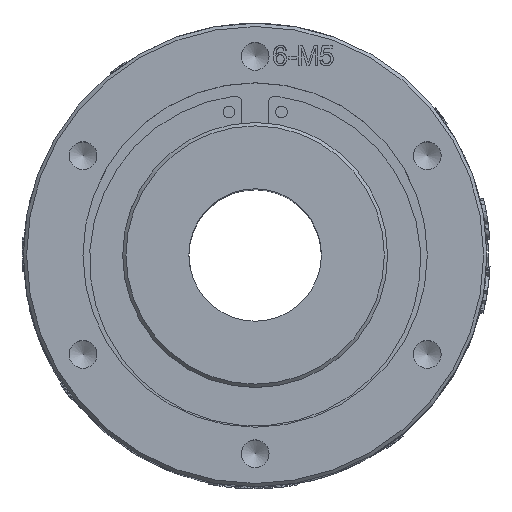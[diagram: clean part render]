
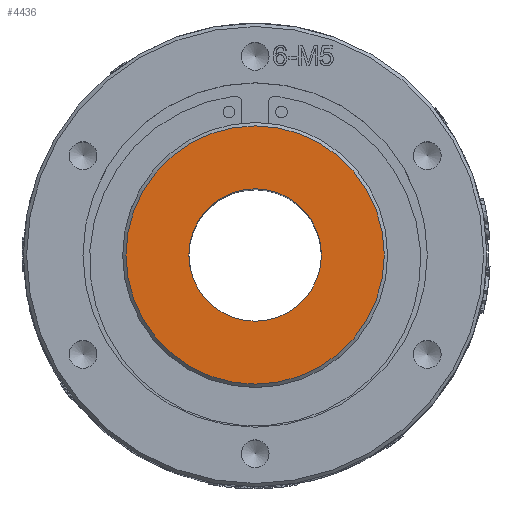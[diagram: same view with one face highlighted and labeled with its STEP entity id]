
A CAD part, top view. The second image highlights one B-rep face of the part: STEP entity #4436.
In plain terms, the highlighted planar face has unit normal (0, 0, 1).
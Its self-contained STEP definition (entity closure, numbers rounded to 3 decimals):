
#513=FACE_BOUND('',#7600,.T.);
#514=FACE_BOUND('',#7601,.T.);
#775=CIRCLE('',#24504,19.5);
#776=CIRCLE('',#24506,10.);
#4436=ADVANCED_FACE('',(#513,#514),#5167,.T.);
#5167=PLANE('',#24507);
#7600=EDGE_LOOP('',(#13005));
#7601=EDGE_LOOP('',(#13006));
#13005=ORIENTED_EDGE('',*,*,#20160,.T.);
#13006=ORIENTED_EDGE('',*,*,#20161,.F.);
#16892=VERTEX_POINT('',#45456);
#16893=VERTEX_POINT('',#45459);
#20160=EDGE_CURVE('',#16892,#16892,#775,.T.);
#20161=EDGE_CURVE('',#16893,#16893,#776,.T.);
#24504=AXIS2_PLACEMENT_3D('',#45455,#27553,#27554);
#24506=AXIS2_PLACEMENT_3D('',#45458,#27557,#27558);
#24507=AXIS2_PLACEMENT_3D('',#45460,#27559,#27560);
#27553=DIRECTION('',(0.,0.,1.));
#27554=DIRECTION('',(1.,0.,0.));
#27557=DIRECTION('',(0.,0.,1.));
#27558=DIRECTION('',(1.,0.,0.));
#27559=DIRECTION('',(0.,0.,1.));
#27560=DIRECTION('',(1.,0.,0.));
#45455=CARTESIAN_POINT('',(0.,0.,87.5));
#45456=CARTESIAN_POINT('',(19.5,0.,87.5));
#45458=CARTESIAN_POINT('',(0.,0.,87.5));
#45459=CARTESIAN_POINT('',(10.,0.,87.5));
#45460=CARTESIAN_POINT('',(0.,0.,87.5));
